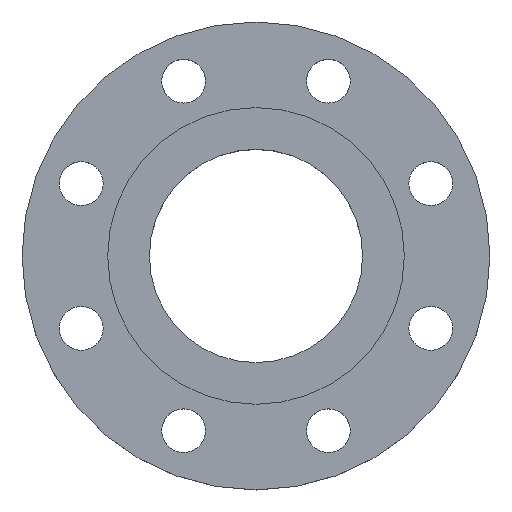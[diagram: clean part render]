
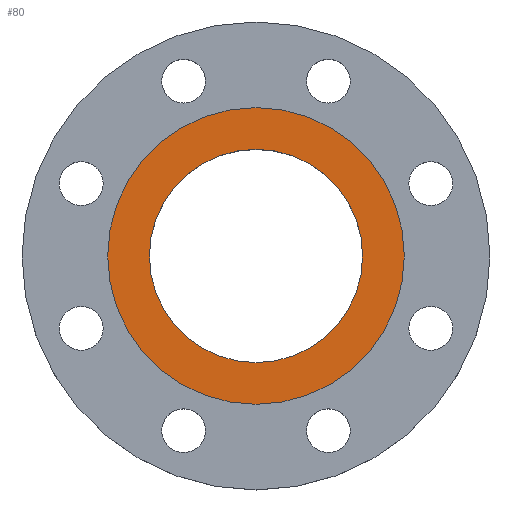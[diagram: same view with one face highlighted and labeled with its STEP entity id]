
A CAD part, top view. The second image highlights one B-rep face of the part: STEP entity #80.
In plain terms, the highlighted planar face has unit normal (0, 0, 1).
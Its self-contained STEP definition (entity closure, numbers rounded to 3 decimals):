
#36 = AXIS2_PLACEMENT_3D ( 'NONE', #369, #368, #367 ) ;
#55 = CIRCLE ( 'NONE', #36, 74.5 ) ;
#80 = ADVANCED_FACE ( 'NONE', ( #771, #775 ), #777, .T. ) ;
#93 = CARTESIAN_POINT ( 'NONE',  ( -53.55, 0., 0. ) ) ;
#162 = CARTESIAN_POINT ( 'NONE',  ( 74.5, 0., 0. ) ) ;
#176 = EDGE_CURVE ( 'NONE', #864, #1069, #756, .T. ) ;
#177 = CARTESIAN_POINT ( 'NONE',  ( -74.5, 0., 0. ) ) ;
#237 = DIRECTION ( 'NONE',  ( -1., 0., 0. ) ) ;
#238 = DIRECTION ( 'NONE',  ( 0., 0., -1. ) ) ;
#239 = CARTESIAN_POINT ( 'NONE',  ( 0., 0., 0. ) ) ;
#242 = CARTESIAN_POINT ( 'NONE',  ( 53.55, 0., 0. ) ) ;
#322 = AXIS2_PLACEMENT_3D ( 'NONE', #889, #888, #887 ) ;
#367 = DIRECTION ( 'NONE',  ( -1., 0., 0. ) ) ;
#368 = DIRECTION ( 'NONE',  ( 0., 0., -1. ) ) ;
#369 = CARTESIAN_POINT ( 'NONE',  ( 0., 0., 0. ) ) ;
#405 = DIRECTION ( 'NONE',  ( -1., 0., 0. ) ) ;
#406 = DIRECTION ( 'NONE',  ( 0., 0., -1. ) ) ;
#407 = CARTESIAN_POINT ( 'NONE',  ( 0., 0., 0. ) ) ;
#420 = CIRCLE ( 'NONE', #423, 53.55 ) ;
#423 = AXIS2_PLACEMENT_3D ( 'NONE', #239, #238, #237 ) ;
#521 = AXIS2_PLACEMENT_3D ( 'NONE', #407, #406, #405 ) ;
#522 = CIRCLE ( 'NONE', #521, 74.5 ) ;
#625 = ORIENTED_EDGE ( 'NONE', *, *, #865, .T. ) ;
#626 = ORIENTED_EDGE ( 'NONE', *, *, #176, .T. ) ;
#628 = ORIENTED_EDGE ( 'NONE', *, *, #815, .F. ) ;
#629 = ORIENTED_EDGE ( 'NONE', *, *, #688, .F. ) ;
#688 = EDGE_CURVE ( 'NONE', #950, #932, #522, .T. ) ;
#756 = CIRCLE ( 'NONE', #322, 53.55 ) ;
#771 = FACE_BOUND ( 'NONE', #952, .T. ) ;
#775 = FACE_OUTER_BOUND ( 'NONE', #977, .T. ) ;
#777 = PLANE ( 'NONE',  #825 ) ;
#778 = CARTESIAN_POINT ( 'NONE',  ( 0., 0., 0. ) ) ;
#780 = DIRECTION ( 'NONE',  ( 0., 0., 1. ) ) ;
#781 = DIRECTION ( 'NONE',  ( 1., 0., 0. ) ) ;
#815 = EDGE_CURVE ( 'NONE', #932, #950, #55, .T. ) ;
#825 = AXIS2_PLACEMENT_3D ( 'NONE', #778, #780, #781 ) ;
#864 = VERTEX_POINT ( 'NONE', #242 ) ;
#865 = EDGE_CURVE ( 'NONE', #1069, #864, #420, .T. ) ;
#887 = DIRECTION ( 'NONE',  ( -1., 0., 0. ) ) ;
#888 = DIRECTION ( 'NONE',  ( 0., 0., -1. ) ) ;
#889 = CARTESIAN_POINT ( 'NONE',  ( 0., 0., 0. ) ) ;
#932 = VERTEX_POINT ( 'NONE', #177 ) ;
#950 = VERTEX_POINT ( 'NONE', #162 ) ;
#952 = EDGE_LOOP ( 'NONE', ( #625, #626 ) ) ;
#977 = EDGE_LOOP ( 'NONE', ( #628, #629 ) ) ;
#1069 = VERTEX_POINT ( 'NONE', #93 ) ;
